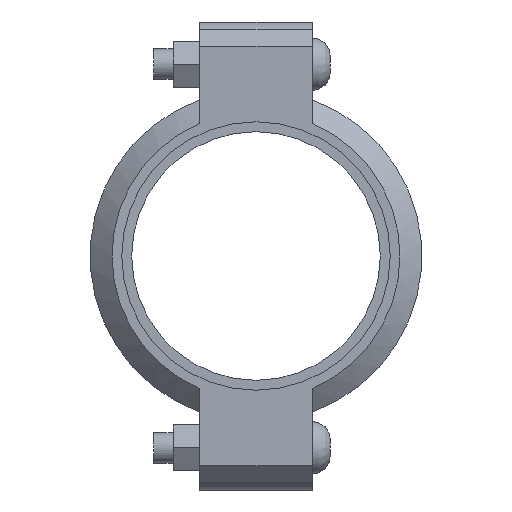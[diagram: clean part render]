
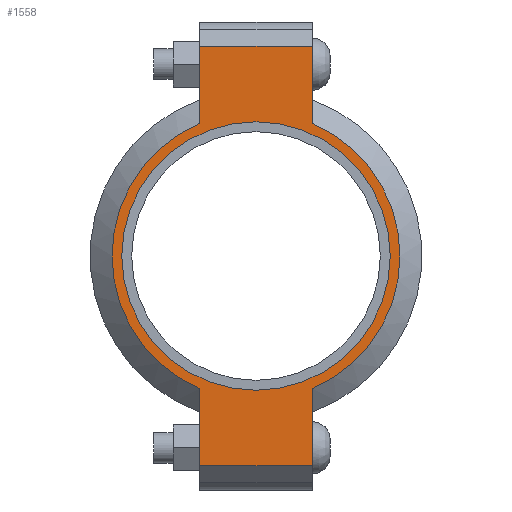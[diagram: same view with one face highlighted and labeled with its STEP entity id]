
A CAD part, left-side view. The second image highlights one B-rep face of the part: STEP entity #1558.
In plain terms, the highlighted planar face has unit normal (-1, 0, 0) as drawn and (0, 0, 1) by its records, which use the part's own axes.
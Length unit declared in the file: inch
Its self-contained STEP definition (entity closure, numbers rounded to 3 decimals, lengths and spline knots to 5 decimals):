
#182=LINE('',#2728,#275);
#190=LINE('',#2764,#283);
#197=LINE('',#2785,#290);
#206=LINE('',#2817,#299);
#207=LINE('',#2821,#300);
#208=LINE('',#2823,#301);
#275=VECTOR('',#2224,0.3937);
#283=VECTOR('',#2240,0.3937);
#290=VECTOR('',#2259,0.3937);
#299=VECTOR('',#2284,0.3937);
#300=VECTOR('',#2289,0.3937);
#301=VECTOR('',#2290,0.3937);
#357=FACE_BOUND('',#535,.T.);
#429=FACE_OUTER_BOUND('',#534,.T.);
#534=EDGE_LOOP('',(#1299,#1300,#1301,#1302,#1303,#1304,#1305,#1306));
#535=EDGE_LOOP('',(#1307));
#607=CIRCLE('',#1786,2.75);
#633=CIRCLE('',#1845,2.95);
#634=CIRCLE('',#1846,2.95);
#699=VERTEX_POINT('',#2544);
#742=VERTEX_POINT('',#2725);
#743=VERTEX_POINT('',#2727);
#754=VERTEX_POINT('',#2759);
#755=VERTEX_POINT('',#2763);
#762=VERTEX_POINT('',#2782);
#763=VERTEX_POINT('',#2784);
#773=VERTEX_POINT('',#2820);
#774=VERTEX_POINT('',#2822);
#855=EDGE_CURVE('',#699,#699,#607,.T.);
#916=EDGE_CURVE('',#743,#742,#182,.T.);
#930=EDGE_CURVE('',#755,#754,#190,.T.);
#940=EDGE_CURVE('',#763,#762,#197,.T.);
#955=EDGE_CURVE('',#755,#742,#206,.T.);
#956=EDGE_CURVE('',#754,#763,#633,.T.);
#957=EDGE_CURVE('',#773,#762,#207,.T.);
#958=EDGE_CURVE('',#773,#774,#208,.T.);
#959=EDGE_CURVE('',#774,#743,#634,.T.);
#1299=ORIENTED_EDGE('',*,*,#955,.F.);
#1300=ORIENTED_EDGE('',*,*,#930,.T.);
#1301=ORIENTED_EDGE('',*,*,#956,.T.);
#1302=ORIENTED_EDGE('',*,*,#940,.T.);
#1303=ORIENTED_EDGE('',*,*,#957,.F.);
#1304=ORIENTED_EDGE('',*,*,#958,.T.);
#1305=ORIENTED_EDGE('',*,*,#959,.T.);
#1306=ORIENTED_EDGE('',*,*,#916,.T.);
#1307=ORIENTED_EDGE('',*,*,#855,.T.);
#1400=PLANE('',#1844);
#1558=ADVANCED_FACE('',(#429,#357),#1400,.T.);
#1786=AXIS2_PLACEMENT_3D('',#2546,#2100,#2101);
#1844=AXIS2_PLACEMENT_3D('',#2818,#2285,#2286);
#1845=AXIS2_PLACEMENT_3D('',#2819,#2287,#2288);
#1846=AXIS2_PLACEMENT_3D('',#2824,#2291,#2292);
#2100=DIRECTION('center_axis',(0.,0.,-1.));
#2101=DIRECTION('ref_axis',(1.,0.,0.));
#2224=DIRECTION('',(1.,0.,0.));
#2240=DIRECTION('',(-1.,0.,0.));
#2259=DIRECTION('',(-1.,0.,0.));
#2284=DIRECTION('',(0.,-1.,0.));
#2285=DIRECTION('center_axis',(0.,0.,1.));
#2286=DIRECTION('ref_axis',(-1.,0.,0.));
#2287=DIRECTION('center_axis',(0.,0.,1.));
#2288=DIRECTION('ref_axis',(1.,0.,0.));
#2289=DIRECTION('',(0.,1.,0.));
#2290=DIRECTION('',(1.,0.,0.));
#2291=DIRECTION('center_axis',(0.,0.,1.));
#2292=DIRECTION('ref_axis',(1.,0.,0.));
#2544=CARTESIAN_POINT('',(-2.75,0.,1.065));
#2546=CARTESIAN_POINT('Origin',(0.,0.,1.065));
#2725=CARTESIAN_POINT('',(4.295,-1.15,1.065));
#2727=CARTESIAN_POINT('',(2.71662,-1.15,1.065));
#2728=CARTESIAN_POINT('',(4.795,-1.15,1.065));
#2759=CARTESIAN_POINT('',(2.71662,1.15,1.065));
#2763=CARTESIAN_POINT('',(4.295,1.15,1.065));
#2764=CARTESIAN_POINT('',(-4.795,1.15,1.065));
#2782=CARTESIAN_POINT('',(-4.295,1.15,1.065));
#2784=CARTESIAN_POINT('',(-2.71662,1.15,1.065));
#2785=CARTESIAN_POINT('',(-4.795,1.15,1.065));
#2817=CARTESIAN_POINT('',(4.295,-0.575,1.065));
#2818=CARTESIAN_POINT('Origin',(0.,0.,
1.065));
#2819=CARTESIAN_POINT('Origin',(0.,0.,1.065));
#2820=CARTESIAN_POINT('',(-4.295,-1.15,1.065));
#2821=CARTESIAN_POINT('',(-4.295,0.575,1.065));
#2822=CARTESIAN_POINT('',(-2.71662,-1.15,1.065));
#2823=CARTESIAN_POINT('',(4.795,-1.15,1.065));
#2824=CARTESIAN_POINT('Origin',(0.,0.,1.065));
